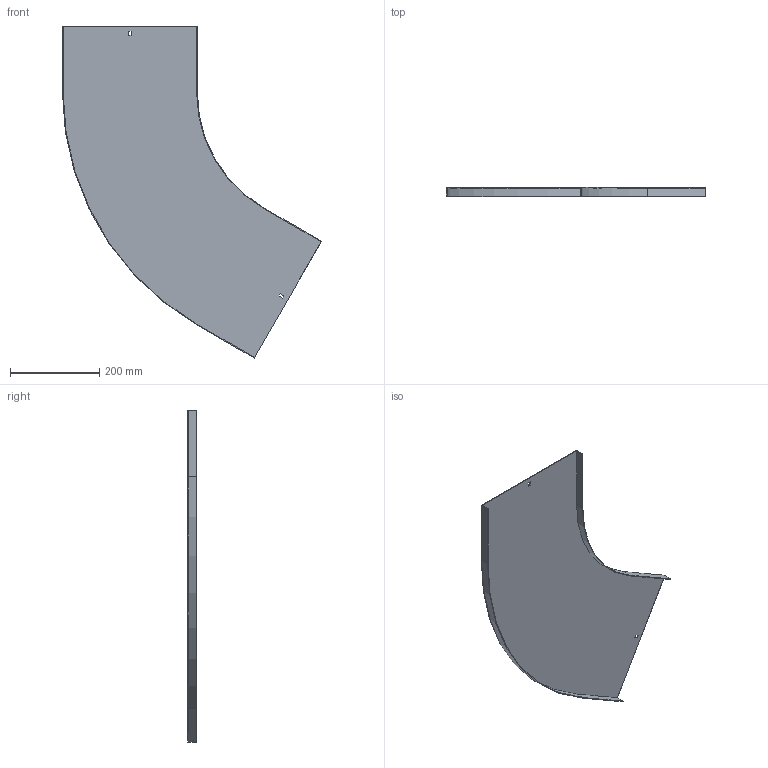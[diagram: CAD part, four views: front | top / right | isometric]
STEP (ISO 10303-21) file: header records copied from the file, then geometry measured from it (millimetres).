
FILE_DESCRIPTION (( 'STEP AP214' ), '1' );
FILE_NAME ('A2_13N3R300.step', '2025-02-21T10:52:09', ( '' ), ( '' ), 'SwSTEP 2.0', 'SolidWorks 2023', '' );
FILE_SCHEMA (( 'AUTOMOTIVE_DESIGN' ));
Length unit declared in the file: millimetre
Products named in the file (1): A2_13N3R300
Bounding box: 582.15 x 20 x 745.91 mm (x, y, z)
Volume: 393156.3 mm3; surface area: 527635.2 mm2
Topology: 1 solids, 1 shells, 26 faces, 72 edges, 48 vertices
Faces by surface type: plane 22, cylinder 4
Entity records: 855 total; most frequent: CARTESIAN_POINT 147, ORIENTED_EDGE 144, DIRECTION 134, EDGE_CURVE 72, VECTOR 64, LINE 64, VERTEX_POINT 48, AXIS2_PLACEMENT_3D 35
